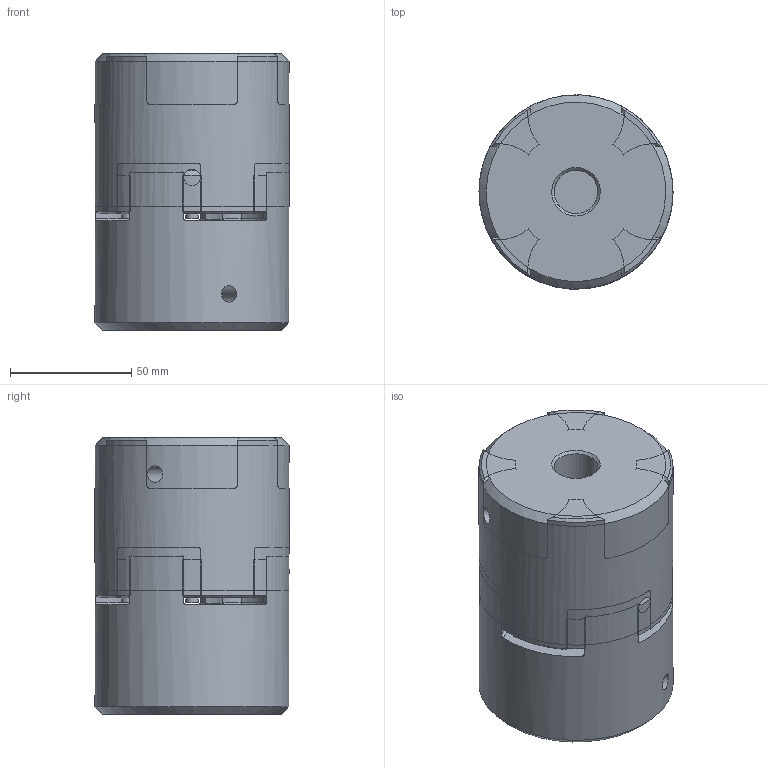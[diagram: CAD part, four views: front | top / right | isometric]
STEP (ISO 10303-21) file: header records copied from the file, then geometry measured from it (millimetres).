
FILE_DESCRIPTION( ( 'Unknown' ), '1' );
FILE_NAME( 'C:/Dokumente und Einstellungen/Sven/Desktop/homepage/cad - homepage/KBE1/KBE 1 - 38.stp', 'Unknown', ( 'Unknown' ), ( 'Unknown' ), 'XStep 1.0', 'Unknown', ' ' );
FILE_SCHEMA( ( 'automotive_design' ) );
Length unit declared in the file: millimetre
Products named in the file (3): Assem1; KBE 1 - 38_Nabe_0; Zahnkranz_38_Standard_0
Bounding box: 80 x 80 x 114 mm (x, y, z)
Surface area: 116159.4 mm2
Topology: 5 solids, 5 shells, 371 faces, 916 edges, 575 vertices
Faces by surface type: cone 157, cylinder 129, plane 54, torus 31
Full cylindrical faces by diameter (mm): 5 x16, 6.8 x3, 18 x3, 38 x4, 80 x3
Entity records: 5760 total; most frequent: CARTESIAN_POINT 1297, DIRECTION 780, ORIENTED_EDGE 714, AXIS2_PLACEMENT_3D 366, EDGE_CURVE 357, VERTEX_POINT 233, CIRCLE 203, EDGE_LOOP 194
